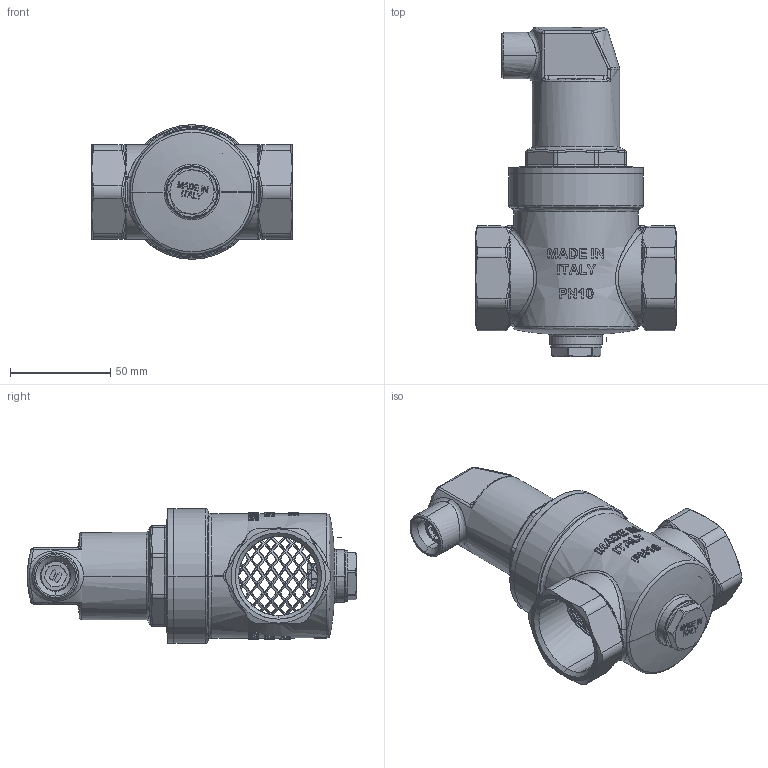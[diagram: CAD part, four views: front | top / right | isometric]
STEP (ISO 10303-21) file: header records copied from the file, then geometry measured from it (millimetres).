
FILE_DESCRIPTION (( 'STEP AP214' ), '1' );
FILE_NAME ('AAS_separator_powietrza_7728100_0_3D_AFRISO.STEP', '2025-07-10T13:22:18', ( '' ), ( '' ), 'SwSTEP 2.0', 'SolidWorks 2024', '' );
FILE_SCHEMA (( 'AUTOMOTIVE_DESIGN' ));
Length unit declared in the file: millimetre
Products named in the file (1025): AAS281_332; AAS281_73; AAS281_398; AAS281_502; AAS281_694; AAS281_485; AAS281_599; AAS281_981; AAS281_38; AAS281_356; AAS281_113; AAS281_462; AAS281_924; AAS281_90; AAS281_199; AAS281_636; AAS281_424; AAS281_724; AAS281_804; AAS281_955; AAS281_298; AAS281_69; AAS281_367; AAS281_116; AAS281_230; AAS281_683; AAS281_451; AAS281_576; AAS281_778; AAS281_351; AAS281_443; AAS281_737; AAS281_906; AAS281_10; AAS281_74; AAS281_395; AAS281_715; AAS281_882; AAS281_371; AAS281_445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
Assembly tree (1024 placements, depth 2):
  AAS_separator_powietrza_7728100_0_3D_AFRISO
    AAS281_1
    AAS281_2
    AAS281_3
    AAS281_4
    AAS281_5
    AAS281_6
    AAS281_7
    AAS281_8
    AAS281_9
    AAS281_10
    AAS281_11
    AAS281_12
    AAS281_13
    AAS281_14
    AAS281_15
    AAS281_16
    AAS281_17
    AAS281_18
    AAS281_19
    AAS281_20
    AAS281_21
    AAS281_22
    AAS281_23
    AAS281_24
    AAS281_25
    AAS281_26
    AAS281_27
    AAS281_28
    AAS281_29
    AAS281_30
    AAS281_31
    AAS281_32
    AAS281_33
    AAS281_34
    AAS281_35
    AAS281_36
    AAS281_37
    AAS281_38
    AAS281_39
    AAS281_40
    AAS281_41
    AAS281_42
    AAS281_43
    AAS281_44
    AAS281_45
    AAS281_46
    AAS281_47
    AAS281_48
    AAS281_49
    AAS281_50
    AAS281_51
    AAS281_52
    AAS281_53
    AAS281_54
    AAS281_55
    AAS281_56
    AAS281_57
    AAS281_58
    AAS281_59
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Bounding box: 100 x 164 x 67 mm (x, y, z)
Surface area: 65398.7 mm2 (no closed solid volume)
Topology: 0 solids, 1024 shells, 1024 faces, 8399 edges, 8346 vertices
Faces by surface type: bspline 639, plane 385
Entity records: 150796 total; most frequent: CARTESIAN_POINT 78560, VERTEX_POINT 8346, ORIENTED_EDGE 8346, EDGE_CURVE 8346, DIRECTION 6876, B_SPLINE_CURVE_WITH_KNOTS 5201, AXIS2_PLACEMENT_3D 2322, VECTOR 2232
